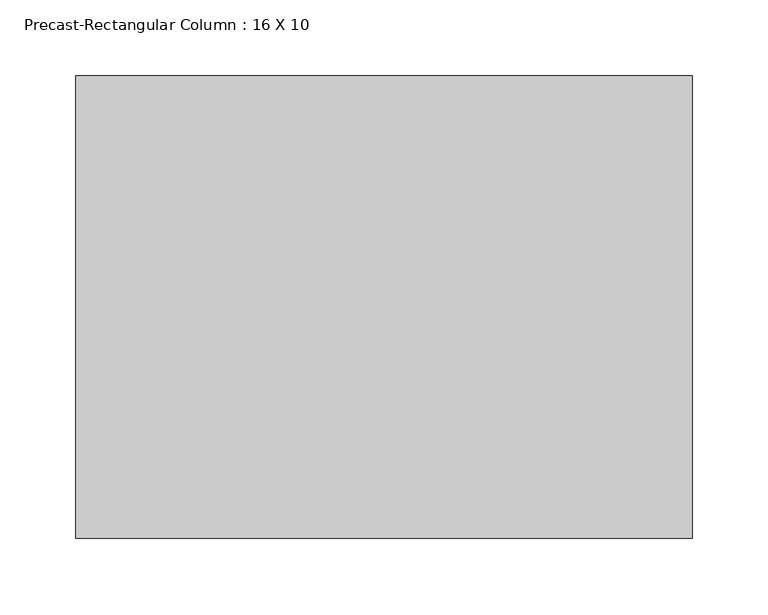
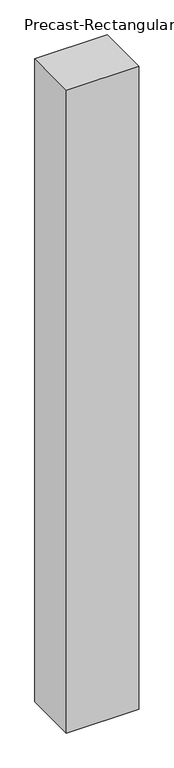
"""IFC4 building model written with IfcOpenShell, lengths in millimetres: column geometry, Precast-Rectangular Column : 16 X 10."""

from ifc_helpers import new_model, si_unit, origin, origin_with_axes, place, context, project, spatial, polyline, outline, extrude, source, transform, mapped, element, save


def precast_rectangular_column_16_x_10_d0502e23(model_context):
    return source(origin(), model_context, "Body", "SweptSolid", [
        extrude(outline(polyline([(203.2, 152.4), (203.2, -152.4), (-203.2, -152.4), (-203.2, 152.4), (203.2, 152.4)])), origin_with_axes(), (0.0, 0.0, 1.0), 3810.0),
    ])


if __name__ == "__main__":
    model = new_model("IFC4")
    model_context = context("Model", 3, world=origin())
    ifc_project = project(units=[si_unit("LENGTHUNIT", "METRE", prefix="MILLI")], contexts=[model_context])
    site = spatial("IfcSite", under=ifc_project)
    building = spatial("IfcBuilding", under=site)
    placement = place(None, origin())
    precast_rectangular_column_16_x_10_shape = precast_rectangular_column_16_x_10_d0502e23(model_context)
    element("IfcColumn", 1, ObjectType="Precast-Rectangular Column : 16 X 10", at=placement, inside=building, context=model_context, shape_type="MappedRepresentation", body=[
        mapped(precast_rectangular_column_16_x_10_shape, transform((0.0, 0.0, 0.0), x_axis=(1.0, 0.0, 0.0), y_axis=(0.0, 1.0, 0.0), z_axis=(0.0, 0.0, 1.0))),
    ])
    save(model, "model.ifc")
